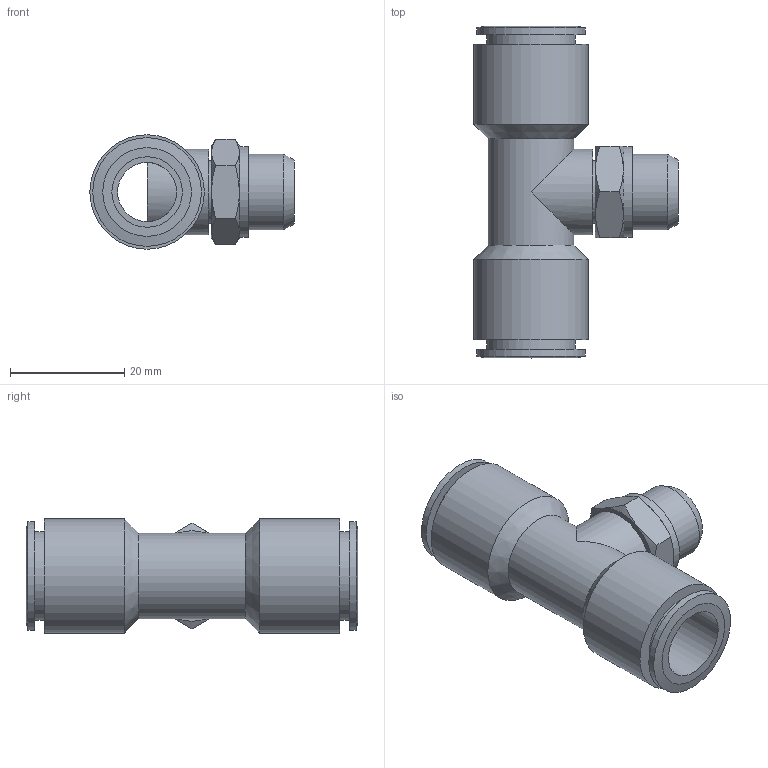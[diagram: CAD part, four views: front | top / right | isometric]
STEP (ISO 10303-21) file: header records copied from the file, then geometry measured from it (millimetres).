
FILE_DESCRIPTION((''),'2;1');
FILE_NAME('C:\Documents and Settings\rivolro1\Documenti\copia di Raccordi\PLASTICA\T20XXXX\T201214.stp','2007-10-31T15:27:15',('Rivolro1'),(''),'Autodesk Inventor 2008','Autodesk Inventor 2008','');
FILE_SCHEMA(('AUTOMOTIVE_DESIGN { 1 0 10303 214 1 1 1 1 }'));
Length unit declared in the file: millimetre
Products named in the file (1): T201214
Bounding box: 35.7 x 58 x 20 mm (x, y, z)
Volume: 11619.7 mm3; surface area: 8114.2 mm2
Topology: 1 solids, 1 shells, 45 faces, 92 edges, 59 vertices
Faces by surface type: plane 17, cylinder 16, cone 8, bspline 4
Full cylindrical faces by diameter (mm): 6 x1, 10.3 x1, 11 x1, 11.2 x1, 13.2 x1, 15 x2, 15.5 x2, 15.8 x1, 19 x2, 20 x2
Entity records: 1191 total; most frequent: CARTESIAN_POINT 296, DIRECTION 170, ORIENTED_EDGE 122, EDGE_LOOP 84, AXIS2_PLACEMENT_3D 81, EDGE_CURVE 61, VERTEX_POINT 53, FACE_OUTER_BOUND 45
